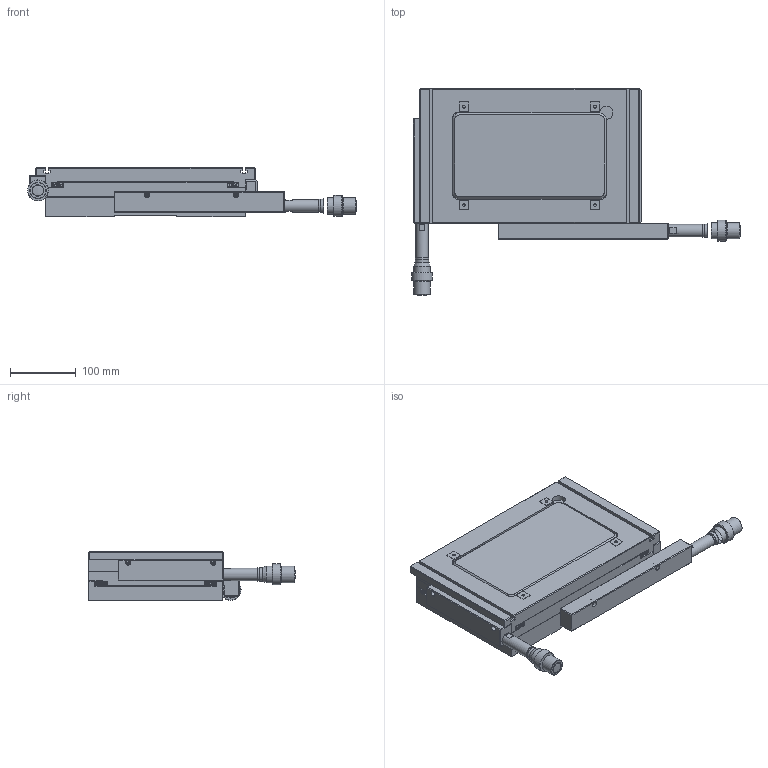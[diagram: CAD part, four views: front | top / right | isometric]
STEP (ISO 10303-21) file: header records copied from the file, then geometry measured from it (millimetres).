
FILE_DESCRIPTION(/* description */ (''),/* implementation_level */ '2;1');
FILE_NAME(/* name */ 'H:\Inventor\Katalog\3D-CAD-Modelle\STP neu\VM3-603-CAD.stp',/* time_stamp */ '2024-01-24T15:26:25+01:00',/* author */ ('KON3'),/* organization */ (''),/* preprocessor_version */ 'ST-DEVELOPER v18',/* originating_system */ 'Autodesk Inventor 2020',/* authorisation */ '');
FILE_SCHEMA (('AUTOMOTIVE_DESIGN { 1 0 10303 214 3 1 1 }'));
Length unit declared in the file: millimetre
Products named in the file (5): VM3-603-CAD; VM3-603_unten; VM3-603_mitte; VM3-603_oben; KT6.29
Assembly tree (4 placements, depth 2):
  VM3-603-CAD
    VM3-603_unten
    VM3-603_mitte
    VM3-603_oben
    KT6.29
Bounding box: 502.05 x 315.05 x 75.5 mm (x, y, z)
Volume: 4252083.8 mm3; surface area: 689640.5 mm2
Topology: 41 solids, 41 shells, 1289 faces, 3573 edges, 2456 vertices
Faces by surface type: plane 751, cylinder 386, cone 142, torus 8, sphere 2
Full cylindrical faces by diameter (mm): 2.4 x16, 2.459 x76, 3.242 x84, 3.5 x16, 4 x4, 4.134 x8, 4.5 x12, 5 x4, 6 x80, 7 x4, 7.5 x16, 8 x12, 9 x2, 10 x8, 14.379 x2, 15 x2, 16 x2, 19 x2, 20 x4, 25 x4, 32 x2, 60 x1
Entity records: 43571 total; most frequent: CARTESIAN_POINT 7504, DIRECTION 7472, ORIENTED_EDGE 6986, EDGE_CURVE 3493, AXIS2_PLACEMENT_3D 2777, VERTEX_POINT 2456, LINE 1918, VECTOR 1918
